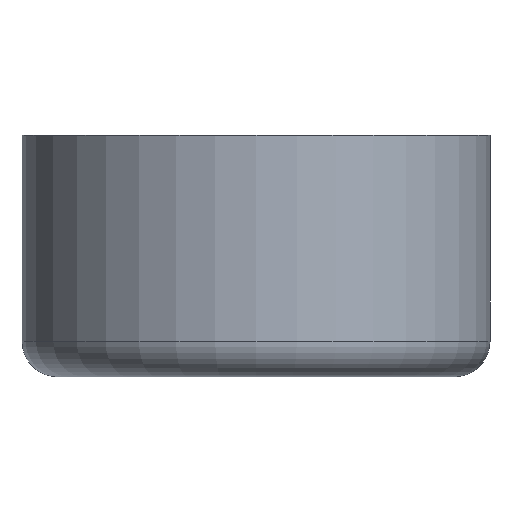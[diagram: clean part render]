
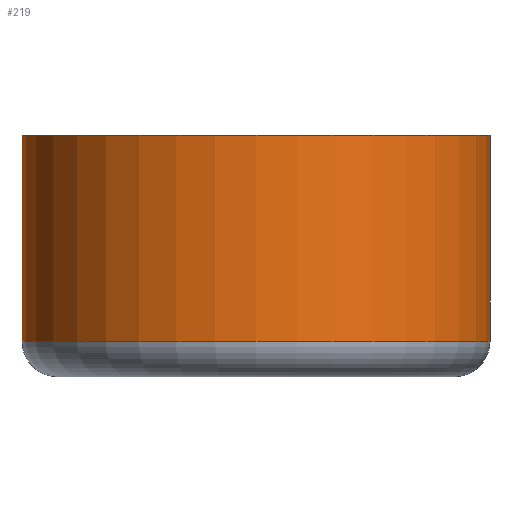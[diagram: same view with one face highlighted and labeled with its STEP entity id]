
A CAD part, front view. The second image highlights one B-rep face of the part: STEP entity #219.
In plain terms, the highlighted cylindrical face has radius 25 mm (diameter 50 mm), a partial arc.
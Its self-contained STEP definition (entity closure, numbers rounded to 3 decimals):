
#7 = DIRECTION ( 'NONE',  ( 1., 0., 0. ) ) ;
#17 = DIRECTION ( 'NONE',  ( 0., 0., -1. ) ) ;
#35 = CARTESIAN_POINT ( 'NONE',  ( 25., 0., 3.8 ) ) ;
#39 = DIRECTION ( 'NONE',  ( 0., 0., -1. ) ) ;
#40 = DIRECTION ( 'NONE',  ( 0., 0., 1. ) ) ;
#51 = CIRCLE ( 'NONE', #208, 25. ) ;
#56 = DIRECTION ( 'NONE',  ( 0., 0., 1. ) ) ;
#58 = ORIENTED_EDGE ( 'NONE', *, *, #154, .T. ) ;
#73 = VERTEX_POINT ( 'NONE', #199 ) ;
#98 = ORIENTED_EDGE ( 'NONE', *, *, #389, .T. ) ;
#99 = EDGE_CURVE ( 'NONE', #73, #312, #235, .T. ) ;
#117 = CARTESIAN_POINT ( 'NONE',  ( 0., 0., 25.8 ) ) ;
#124 = AXIS2_PLACEMENT_3D ( 'NONE', #178, #56, #308 ) ;
#126 = ORIENTED_EDGE ( 'NONE', *, *, #367, .F. ) ;
#136 = VECTOR ( 'NONE', #190, 1000. ) ;
#140 = CARTESIAN_POINT ( 'NONE',  ( 0., 0., 25.8 ) ) ;
#154 = EDGE_CURVE ( 'NONE', #196, #312, #261, .T. ) ;
#163 = EDGE_LOOP ( 'NONE', ( #316, #126, #98, #58 ) ) ;
#176 = CYLINDRICAL_SURFACE ( 'NONE', #310, 25. ) ;
#178 = CARTESIAN_POINT ( 'NONE',  ( 0., 0., 3.8 ) ) ;
#179 = DIRECTION ( 'NONE',  ( -1., 0., 0. ) ) ;
#190 = DIRECTION ( 'NONE',  ( 0., 0., -1. ) ) ;
#196 = VERTEX_POINT ( 'NONE', #279 ) ;
#198 = CARTESIAN_POINT ( 'NONE',  ( -25., 0., 25.8 ) ) ;
#199 = CARTESIAN_POINT ( 'NONE',  ( 25., 0., 25.8 ) ) ;
#208 = AXIS2_PLACEMENT_3D ( 'NONE', #140, #40, #7 ) ;
#219 = ADVANCED_FACE ( 'NONE', ( #402 ), #176, .T. ) ;
#235 = LINE ( 'NONE', #328, #293 ) ;
#261 = CIRCLE ( 'NONE', #124, 25. ) ;
#279 = CARTESIAN_POINT ( 'NONE',  ( -25., 0., 3.8 ) ) ;
#293 = VECTOR ( 'NONE', #39, 1000. ) ;
#308 = DIRECTION ( 'NONE',  ( 1., 0., 0. ) ) ;
#310 = AXIS2_PLACEMENT_3D ( 'NONE', #117, #17, #179 ) ;
#312 = VERTEX_POINT ( 'NONE', #35 ) ;
#316 = ORIENTED_EDGE ( 'NONE', *, *, #99, .F. ) ;
#328 = CARTESIAN_POINT ( 'NONE',  ( 25., 0., 25.8 ) ) ;
#353 = CARTESIAN_POINT ( 'NONE',  ( -25., 0., 25.8 ) ) ;
#367 = EDGE_CURVE ( 'NONE', #380, #73, #51, .T. ) ;
#380 = VERTEX_POINT ( 'NONE', #198 ) ;
#387 = LINE ( 'NONE', #353, #136 ) ;
#389 = EDGE_CURVE ( 'NONE', #380, #196, #387, .T. ) ;
#402 = FACE_OUTER_BOUND ( 'NONE', #163, .T. ) ;
